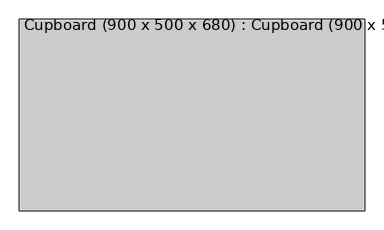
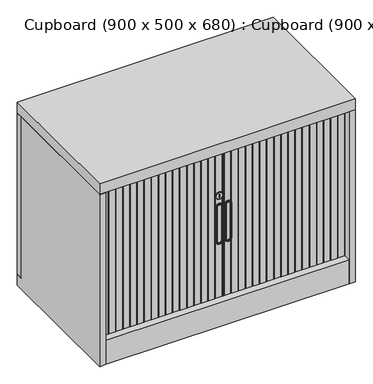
"""IFC4 building model written with IfcOpenShell, lengths in millimetres: furniture geometry, Cupboard (900 x 500 x 680) : Cupboard (900 x 500 x 680)."""

from ifc_helpers import new_model, si_unit, point, frame, frame_2d, origin, origin_with_axes, place, context, project, spatial, polyline, circle_curve, ellipse_curve, trimmed, segment, composite_curve, outline, extrude, faceted_brep, source, transform, mapped, element, save
from ifc_brep_helpers import plane_surface, cylinder_surface, revolved_surface, advanced_brep


def cupboard_900_x_500_x_680_cupboard_900_x_500_x_680_8522250a(model_context):
    return source(origin(), model_context, "Body", "SolidModel", [
        advanced_brep(
        [(26.5273848, -229.0, 301.9022034), (26.5273848, -229.0, 428.0527572), (4.5273848, -229.0, 428.0527572), (4.5273848, -229.0, 301.9022034), (6.5273848, -229.0, 302.046184), (6.5273848, -229.0, 428.0415606), (24.5273848, -229.0, 428.0415606), (24.5273848, -229.0, 302.046184), (3.5273848, -228.0, 301.9022034), (3.5273848, -226.0, 301.9022034), (27.5273848, -226.0, 301.9022034), (27.5273848, -228.0, 301.9022034), (27.5273848, -220.0, 301.9022034), (27.5273848, -220.0, 428.0527572), (27.5273848, -226.0, 428.0527572), (27.5273848, -228.0, 428.0527572), (3.5273848, -226.0, 428.0527572), (3.5273848, -228.0, 428.0527572), (3.5273848, -220.0, 428.0527572), (3.5273848, -220.0, 301.9022034), (7.5273848, -228.0, 428.0415606), (7.5273848, -226.0, 428.0415606), (23.5273848, -226.0, 428.0415606), (23.5273848, -228.0, 428.0415606), (23.5273848, -226.0, 302.046184), (23.5273848, -228.0, 302.046184), (7.5273848, -226.0, 302.046184), (7.5273848, -228.0, 302.046184)],
        [
            (0, 1),
            (1, 2, circle_curve(frame((15.5273848, -229.0, 428.0527572), z_axis=(0.0, -1.0, 0.0), x_axis=(-1.0, 0.0, 0.0)), 11.0)),
            (2, 3),
            (3, 0, circle_curve(frame((15.5273848, -229.0, 301.9022034), z_axis=(0.0, -1.0, 0.0), x_axis=(1.0, 0.0, 0.0)), 11.0)),
            (4, 5),
            (5, 6, circle_curve(frame((15.5273848, -229.0, 428.0415606), z_axis=(0.0, 1.0, 0.0), x_axis=(1.0, 0.0, 0.0)), 9.0)),
            (6, 7),
            (7, 4, circle_curve(frame((15.5273848, -229.0, 302.046184), z_axis=(0.0, 1.0, 0.0), x_axis=(-1.0, 0.0, 0.0)), 9.0)),
            (8, 9),
            (9, 10, circle_curve(frame((15.5273848, -226.0, 301.9022034), z_axis=(0.0, -1.0, 0.0), x_axis=(1.0, 0.0, 0.0)), 12.0)),
            (10, 11),
            (11, 8, circle_curve(frame((15.5273848, -228.0, 301.9022034), z_axis=(0.0, 1.0, 0.0), x_axis=(1.0, 0.0, 0.0)), 12.0)),
            (10, 12),
            (12, 13),
            (13, 14),
            (14, 15),
            (15, 11),
            (14, 16, circle_curve(frame((15.5273848, -226.0, 428.0527572), z_axis=(0.0, -1.0, 0.0), x_axis=(1.0, 0.0, 0.0)), 12.0)),
            (16, 17),
            (17, 15, circle_curve(frame((15.5273848, -228.0, 428.0527572), z_axis=(0.0, 1.0, 0.0), x_axis=(1.0, 0.0, 0.0)), 12.0)),
            (8, 17),
            (16, 18),
            (18, 19),
            (19, 9),
            (20, 21),
            (21, 22, circle_curve(frame((15.5273848, -226.0, 428.0415606), z_axis=(0.0, 1.0, 0.0), x_axis=(1.0, 0.0, 0.0)), 8.0)),
            (22, 23),
            (23, 20, circle_curve(frame((15.5273848, -228.0, 428.0415606), z_axis=(0.0, -1.0, 0.0), x_axis=(1.0, 0.0, 0.0)), 8.0)),
            (22, 24),
            (24, 25),
            (25, 23),
            (24, 26, circle_curve(frame((15.5273848, -226.0, 302.046184), z_axis=(0.0, 1.0, 0.0), x_axis=(1.0, 0.0, 0.0)), 8.0)),
            (26, 27),
            (27, 25, circle_curve(frame((15.5273848, -228.0, 302.046184), z_axis=(0.0, -1.0, 0.0), x_axis=(1.0, 0.0, 0.0)), 8.0)),
            (20, 27),
            (26, 21),
            (4, 27, circle_curve(frame((6.5273848, -228.0, 302.046184), z_axis=(0.0, 0.0, 1.0), x_axis=(-1.0, 0.0, 0.0)), 1.0)),
            (20, 5, circle_curve(frame((6.5273848, -228.0, 428.0415606), z_axis=(0.0, 0.0, -1.0), x_axis=(-1.0, 0.0, 0.0)), 1.0)),
            (7, 25, circle_curve(frame((24.5273848, -228.0, 302.046184), z_axis=(0.0, 0.0, -1.0), x_axis=(1.0, 0.0, 0.0)), 1.0)),
            (6, 23, circle_curve(frame((24.5273848, -228.0, 428.0415606), z_axis=(0.0, 0.0, -1.0), x_axis=(1.0, 0.0, 0.0)), 1.0)),
            (0, 11, circle_curve(frame((26.5273848, -228.0, 301.9022034), z_axis=(0.0, 0.0, 1.0), x_axis=(1.0, 0.0, 0.0)), 1.0)),
            (15, 1, circle_curve(frame((26.5273848, -228.0, 428.0527572), z_axis=(0.0, 0.0, -1.0), x_axis=(1.0, 0.0, 0.0)), 1.0)),
            (3, 8, circle_curve(frame((4.5273848, -228.0, 301.9022034), z_axis=(0.0, 0.0, -1.0), x_axis=(-1.0, 0.0, 0.0)), 1.0)),
            (2, 17, circle_curve(frame((4.5273848, -228.0, 428.0527572), z_axis=(0.0, 0.0, -1.0), x_axis=(-1.0, 0.0, 0.0)), 1.0)),
            (18, 13, circle_curve(frame((15.5273848, -220.0, 428.0527572), z_axis=(0.0, 1.0, 0.0), x_axis=(1.0, 0.0, 0.0)), 12.0)),
            (12, 19, circle_curve(frame((15.5273848, -220.0, 301.9022034), z_axis=(0.0, 1.0, 0.0), x_axis=(1.0, 0.0, 0.0)), 12.0)),
        ],
        [
            plane_surface(frame((27.5273848, -229.0, 301.9022034), z_axis=(0.0, -1.0, 0.0), x_axis=(0.0, 0.0, 1.0))),
            cylinder_surface(frame((15.5273848, -226.0, 301.9022034), z_axis=(0.0, -1.0, 0.0), x_axis=(1.0, 0.0, 0.0)), 12.0),
            plane_surface(frame((27.5273848, -229.0, 301.9022034), z_axis=(1.0, 0.0, 0.0), x_axis=(0.0, 1.0, 0.0))),
            cylinder_surface(frame((15.5273848, -226.0, 428.0527572), z_axis=(0.0, -1.0, 0.0), x_axis=(1.0, 0.0, 0.0)), 12.0),
            plane_surface(frame((3.5273848, -229.0, 428.0527572), z_axis=(-1.0, 0.0, 0.0), x_axis=(0.0, 1.0, 0.0))),
            revolved_surface(polyline([(23.5273848, -226.0, 428.0415606), (23.5273848, -228.0, 428.0415606)]), (15.5273848, -229.0, 428.0415606), (0.0, 1.0, 0.0)),
            plane_surface(frame((23.5273848, -229.0, 428.0415606), z_axis=(-1.0, 0.0, 0.0), x_axis=(0.0, 1.0, 0.0))),
            revolved_surface(polyline([(23.5273848, -226.0, 302.046184), (23.5273848, -228.0, 302.046184)]), (15.5273848, -229.0, 302.046184), (0.0, 1.0, 0.0)),
            plane_surface(frame((7.5273848, -229.0, 302.046184), z_axis=(1.0, 0.0, 0.0), x_axis=(0.0, 1.0, 0.0))),
            cylinder_surface(frame((6.5273848, -228.0, 428.0415606), z_axis=(0.0, 0.0, -1.0), x_axis=(-1.0, 0.0, 0.0)), 1.0),
            revolved_surface(trimmed(ellipse_curve(frame((6.5273848, -228.0, 302.046184), z_axis=(0.0, 0.0, 1.0), x_axis=(-1.0, 0.0, 0.0)), 1.0, 1.0), [point((6.5273848, -229.0, 302.046184))], [point((7.5273848, -228.0, 302.046184))], True, "CARTESIAN"), (15.5273848, -229.0, 302.046184), (0.0, -1.0, 0.0)),
            cylinder_surface(frame((24.5273848, -228.0, 302.046184), z_axis=(0.0, 0.0, 1.0), x_axis=(1.0, 0.0, 0.0)), 1.0),
            revolved_surface(trimmed(ellipse_curve(frame((24.5273848, -228.0, 428.0415606), z_axis=(0.0, 0.0, -1.0), x_axis=(1.0, 0.0, 0.0)), 1.0, 1.0), [point((24.5273848, -229.0, 428.0415606))], [point((23.5273848, -228.0, 428.0415606))], True, "CARTESIAN"), (15.5273848, -229.0, 428.0415606), (0.0, -1.0, 0.0)),
            cylinder_surface(frame((26.5273848, -228.0, 428.0527572), z_axis=(0.0, 0.0, -1.0), x_axis=(1.0, 0.0, 0.0)), 1.0),
            revolved_surface(trimmed(ellipse_curve(frame((26.5273848, -228.0, 301.9022034), z_axis=(0.0, 0.0, 1.0), x_axis=(1.0, 0.0, 0.0)), 1.0, 1.0), [point((26.5273848, -229.0, 301.9022034))], [point((27.5273848, -228.0, 301.9022034))], True, "CARTESIAN"), (15.5273848, -229.0, 301.9022034), (0.0, 1.0, 0.0)),
            cylinder_surface(frame((4.5273848, -228.0, 301.9022034), z_axis=(0.0, 0.0, 1.0), x_axis=(-1.0, 0.0, 0.0)), 1.0),
            revolved_surface(trimmed(ellipse_curve(frame((4.5273848, -228.0, 428.0527572), z_axis=(0.0, 0.0, -1.0), x_axis=(-1.0, 0.0, 0.0)), 1.0, 1.0), [point((4.5273848, -229.0, 428.0527572))], [point((3.5273848, -228.0, 428.0527572))], True, "CARTESIAN"), (15.5273848, -229.0, 428.0527572), (0.0, 1.0, 0.0)),
            plane_surface(frame((27.5273848, -226.0, 301.9022034), z_axis=(0.0, -1.0, 0.0), x_axis=(0.0, 0.0, 1.0))),
            plane_surface(frame((27.5273848, -220.0, 301.9022034), z_axis=(0.0, 1.0, 0.0), x_axis=(0.0, 0.0, -1.0))),
            cylinder_surface(frame((15.5273848, -220.0, 301.9022034), z_axis=(0.0, -1.0, 0.0), x_axis=(1.0, 0.0, 0.0)), 12.0),
            cylinder_surface(frame((15.5273848, -220.0, 428.0527572), z_axis=(0.0, -1.0, 0.0), x_axis=(1.0, 0.0, 0.0)), 12.0),
        ],
        [
            (0, [[1, 2, 3, 4], [5, 6, 7, 8]]),
            (1, [[9, 10, 11, 12]]),
            (2, [[-11, 13, 14, 15, 16, 17]]),
            (3, [[-16, 18, 19, 20]]),
            (4, [[-9, 21, -19, 22, 23, 24]]),
            (5, [[25, 26, 27, 28]]),
            (6, [[-27, 29, 30, 31]]),
            (7, [[-30, 32, 33, 34]]),
            (8, [[-25, 35, -33, 36]]),
            (9, [[37, -35, 38, -5]]),
            (10, [[-37, -8, 39, -34]]),
            (11, [[-39, -7, 40, -31]]),
            (12, [[-38, -28, -40, -6]]),
            (13, [[41, -17, 42, -1]]),
            (14, [[-41, -4, 43, -12]]),
            (15, [[-43, -3, 44, -21]]),
            (16, [[-42, -20, -44, -2]]),
            (17, [[-26, -36, -32, -29]]),
            (18, [[-23, 45, -14, 46]]),
            (19, [[-46, -13, -10, -24]]),
            (20, [[-45, -22, -18, -15]]),
        ],
    ),
        advanced_brep(
        [(-26.8154748, -229.0, 469.9505671), (-3.7101479, -229.0, 469.9505671), (-14.2354266, -229.0, 476.0185691), (-14.2354266, -229.0, 464.0185691), (-16.2354266, -229.0, 464.0185691), (-16.2354266, -229.0, 476.0185691), (-27.8154748, -220.0, 469.9505671), (-2.7101479, -220.0, 469.9505671), (-14.2354266, -220.0, 476.0185691), (-16.2354266, -220.0, 476.0185691), (-16.2354266, -220.0, 464.0185691), (-14.2354266, -220.0, 464.0185691), (-2.7101479, -228.0, 469.9505671), (-27.8154748, -228.0, 469.9505671)],
        [
            (0, 1, circle_curve(frame((-15.2628114, -229.0, 469.9505671), z_axis=(0.0, -1.0, 0.0), x_axis=(1.0, 0.0, 0.0)), 11.5526635)),
            (1, 0, circle_curve(frame((-15.2628114, -229.0, 469.9505671), z_axis=(0.0, -1.0, 0.0), x_axis=(-1.0, 0.0, 0.0)), 11.5526635)),
            (2, 3),
            (3, 4),
            (4, 5),
            (5, 2),
            (6, 7, circle_curve(frame((-15.2628114, -220.0, 469.9505671), z_axis=(0.0, 1.0, 0.0), x_axis=(1.0, 0.0, 0.0)), 12.5526635)),
            (7, 6, circle_curve(frame((-15.2628114, -220.0, 469.9505671), z_axis=(0.0, 1.0, 0.0), x_axis=(1.0, 0.0, 0.0)), 12.5526635)),
            (8, 9),
            (9, 10),
            (10, 11),
            (11, 8),
            (7, 12),
            (12, 13, circle_curve(frame((-15.2628114, -228.0, 469.9505671), z_axis=(0.0, 1.0, 0.0), x_axis=(1.0, 0.0, 0.0)), 12.5526635)),
            (13, 6),
            (13, 12, circle_curve(frame((-15.2628114, -228.0, 469.9505671), z_axis=(0.0, 1.0, 0.0), x_axis=(1.0, 0.0, 0.0)), 12.5526635)),
            (2, 8),
            (11, 3),
            (10, 4),
            (9, 5),
            (0, 13, circle_curve(frame((-26.8154748, -228.0, 469.9505671), z_axis=(0.0, 0.0, -1.0), x_axis=(-1.0, 0.0, 0.0)), 1.0)),
            (12, 1, circle_curve(frame((-3.7101479, -228.0, 469.9505671), z_axis=(0.0, 0.0, -1.0), x_axis=(1.0, 0.0, 0.0)), 1.0)),
        ],
        [
            plane_surface(frame((-2.7101479, -229.0, 469.9505671), z_axis=(0.0, -1.0, 0.0), x_axis=(0.0, 0.0, 1.0))),
            plane_surface(frame((-2.7101479, -220.0, 469.9505671), z_axis=(0.0, 1.0, 0.0), x_axis=(0.0, 0.0, -1.0))),
            cylinder_surface(frame((-15.2628114, -220.0, 469.9505671), z_axis=(0.0, -1.0, 0.0), x_axis=(1.0, 0.0, 0.0)), 12.5526635),
            plane_surface(frame((-14.2354266, -229.0, 476.0185691), z_axis=(-1.0, 0.0, 0.0), x_axis=(0.0, 1.0, 0.0))),
            plane_surface(frame((-14.2354266, -229.0, 464.0185691), z_axis=(0.0, 0.0, 1.0), x_axis=(0.0, 1.0, 0.0))),
            plane_surface(frame((-16.2354266, -229.0, 464.0185691), z_axis=(1.0, 0.0, 0.0), x_axis=(0.0, 1.0, 0.0))),
            plane_surface(frame((-16.2354266, -229.0, 476.0185691), z_axis=(0.0, 0.0, -1.0), x_axis=(0.0, 1.0, 0.0))),
            revolved_surface(trimmed(ellipse_curve(frame((-3.7101479, -228.0, 469.9505671), z_axis=(0.0, 0.0, 1.0), x_axis=(1.0, 0.0, 0.0)), 1.0, 1.0), [point((-3.7101479, -229.0, 469.9505671))], [point((-2.7101479, -228.0, 469.9505671))], True, "CARTESIAN"), (-15.2628114, -229.0, 469.9505671), (0.0, 1.0, 0.0)),
            revolved_surface(trimmed(ellipse_curve(frame((-26.8154748, -228.0, 469.9505671), z_axis=(0.0, 0.0, -1.0), x_axis=(-1.0, 0.0, 0.0)), 1.0, 1.0), [point((-26.8154748, -229.0, 469.9505671))], [point((-27.8154748, -228.0, 469.9505671))], True, "CARTESIAN"), (-15.2628114, -229.0, 469.9505671), (0.0, 1.0, 0.0)),
        ],
        [
            (0, [[1, 2], [3, 4, 5, 6]]),
            (1, [[7, 8], [9, 10, 11, 12]]),
            (2, [[-8, 13, 14, 15]]),
            (2, [[-7, -15, 16, -13]]),
            (3, [[-3, 17, -12, 18]]),
            (4, [[-4, -18, -11, 19]]),
            (5, [[-5, -19, -10, 20]]),
            (6, [[-6, -20, -9, -17]]),
            (7, [[21, -14, 22, -1]]),
            (8, [[-21, -2, -22, -16]]),
        ],
    ),
        advanced_brep(
        [(-4.2354266, -229.0, 301.9022034), (-4.2354266, -229.0, 428.0527572), (-26.2354266, -229.0, 428.0527572), (-26.2354266, -229.0, 301.9022034), (-24.2354266, -229.0, 302.046184), (-24.2354266, -229.0, 428.0415606), (-6.2354266, -229.0, 428.0415606), (-6.2354266, -229.0, 302.046184), (-27.2354266, -228.0, 301.9022034), (-27.2354266, -226.0, 301.9022034), (-3.2354266, -226.0, 301.9022034), (-3.2354266, -228.0, 301.9022034), (-3.2354266, -220.0, 301.9022034), (-3.2354266, -220.0, 428.0527572), (-3.2354266, -226.0, 428.0527572), (-3.2354266, -228.0, 428.0527572), (-27.2354266, -226.0, 428.0527572), (-27.2354266, -228.0, 428.0527572), (-27.2354266, -220.0, 428.0527572), (-27.2354266, -220.0, 301.9022034), (-23.2354266, -228.0, 428.0415606), (-23.2354266, -226.0, 428.0415606), (-7.2354266, -226.0, 428.0415606), (-7.2354266, -228.0, 428.0415606), (-7.2354266, -226.0, 302.046184), (-7.2354266, -228.0, 302.046184), (-23.2354266, -226.0, 302.046184), (-23.2354266, -228.0, 302.046184)],
        [
            (0, 1),
            (1, 2, circle_curve(frame((-15.2354266, -229.0, 428.0527572), z_axis=(0.0, -1.0, 0.0), x_axis=(-1.0, 0.0, 0.0)), 11.0)),
            (2, 3),
            (3, 0, circle_curve(frame((-15.2354266, -229.0, 301.9022034), z_axis=(0.0, -1.0, 0.0), x_axis=(1.0, 0.0, 0.0)), 11.0)),
            (4, 5),
            (5, 6, circle_curve(frame((-15.2354266, -229.0, 428.0415606), z_axis=(0.0, 1.0, 0.0), x_axis=(1.0, 0.0, 0.0)), 9.0)),
            (6, 7),
            (7, 4, circle_curve(frame((-15.2354266, -229.0, 302.046184), z_axis=(0.0, 1.0, 0.0), x_axis=(-1.0, 0.0, 0.0)), 9.0)),
            (8, 9),
            (9, 10, circle_curve(frame((-15.2354266, -226.0, 301.9022034), z_axis=(0.0, -1.0, 0.0), x_axis=(1.0, 0.0, 0.0)), 12.0)),
            (10, 11),
            (11, 8, circle_curve(frame((-15.2354266, -228.0, 301.9022034), z_axis=(0.0, 1.0, 0.0), x_axis=(1.0, 0.0, 0.0)), 12.0)),
            (10, 12),
            (12, 13),
            (13, 14),
            (14, 15),
            (15, 11),
            (14, 16, circle_curve(frame((-15.2354266, -226.0, 428.0527572), z_axis=(0.0, -1.0, 0.0), x_axis=(1.0, 0.0, 0.0)), 12.0)),
            (16, 17),
            (17, 15, circle_curve(frame((-15.2354266, -228.0, 428.0527572), z_axis=(0.0, 1.0, 0.0), x_axis=(1.0, 0.0, 0.0)), 12.0)),
            (8, 17),
            (16, 18),
            (18, 19),
            (19, 9),
            (20, 21),
            (21, 22, circle_curve(frame((-15.2354266, -226.0, 428.0415606), z_axis=(0.0, 1.0, 0.0), x_axis=(1.0, 0.0, 0.0)), 8.0)),
            (22, 23),
            (23, 20, circle_curve(frame((-15.2354266, -228.0, 428.0415606), z_axis=(0.0, -1.0, 0.0), x_axis=(1.0, 0.0, 0.0)), 8.0)),
            (22, 24),
            (24, 25),
            (25, 23),
            (24, 26, circle_curve(frame((-15.2354266, -226.0, 302.046184), z_axis=(0.0, 1.0, 0.0), x_axis=(1.0, 0.0, 0.0)), 8.0)),
            (26, 27),
            (27, 25, circle_curve(frame((-15.2354266, -228.0, 302.046184), z_axis=(0.0, -1.0, 0.0), x_axis=(1.0, 0.0, 0.0)), 8.0)),
            (20, 27),
            (26, 21),
            (4, 27, circle_curve(frame((-24.2354266, -228.0, 302.046184), z_axis=(0.0, 0.0, 1.0), x_axis=(-1.0, 0.0, 0.0)), 1.0)),
            (20, 5, circle_curve(frame((-24.2354266, -228.0, 428.0415606), z_axis=(0.0, 0.0, -1.0), x_axis=(-1.0, 0.0, 0.0)), 1.0)),
            (7, 25, circle_curve(frame((-6.2354266, -228.0, 302.046184), z_axis=(0.0, 0.0, -1.0), x_axis=(1.0, 0.0, 0.0)), 1.0)),
            (6, 23, circle_curve(frame((-6.2354266, -228.0, 428.0415606), z_axis=(0.0, 0.0, -1.0), x_axis=(1.0, 0.0, 0.0)), 1.0)),
            (0, 11, circle_curve(frame((-4.2354266, -228.0, 301.9022034), z_axis=(0.0, 0.0, 1.0), x_axis=(1.0, 0.0, 0.0)), 1.0)),
            (15, 1, circle_curve(frame((-4.2354266, -228.0, 428.0527572), z_axis=(0.0, 0.0, -1.0), x_axis=(1.0, 0.0, 0.0)), 1.0)),
            (3, 8, circle_curve(frame((-26.2354266, -228.0, 301.9022034), z_axis=(0.0, 0.0, -1.0), x_axis=(-1.0, 0.0, 0.0)), 1.0)),
            (2, 17, circle_curve(frame((-26.2354266, -228.0, 428.0527572), z_axis=(0.0, 0.0, -1.0), x_axis=(-1.0, 0.0, 0.0)), 1.0)),
            (18, 13, circle_curve(frame((-15.2354266, -220.0, 428.0527572), z_axis=(0.0, 1.0, 0.0), x_axis=(1.0, 0.0, 0.0)), 12.0)),
            (12, 19, circle_curve(frame((-15.2354266, -220.0, 301.9022034), z_axis=(0.0, 1.0, 0.0), x_axis=(1.0, 0.0, 0.0)), 12.0)),
        ],
        [
            plane_surface(frame((-3.2354266, -229.0, 301.9022034), z_axis=(0.0, -1.0, 0.0), x_axis=(0.0, 0.0, 1.0))),
            cylinder_surface(frame((-15.2354266, -226.0, 301.9022034), z_axis=(0.0, -1.0, 0.0), x_axis=(1.0, 0.0, 0.0)), 12.0),
            plane_surface(frame((-3.2354266, -229.0, 301.9022034), z_axis=(1.0, 0.0, 0.0), x_axis=(0.0, 1.0, 0.0))),
            cylinder_surface(frame((-15.2354266, -226.0, 428.0527572), z_axis=(0.0, -1.0, 0.0), x_axis=(1.0, 0.0, 0.0)), 12.0),
            plane_surface(frame((-27.2354266, -229.0, 428.0527572), z_axis=(-1.0, 0.0, 0.0), x_axis=(0.0, 1.0, 0.0))),
            revolved_surface(polyline([(-7.2354266, -226.0, 428.0415606), (-7.2354266, -228.0, 428.0415606)]), (-15.2354266, -229.0, 428.0415606), (0.0, 1.0, 0.0)),
            plane_surface(frame((-7.2354266, -229.0, 428.0415606), z_axis=(-1.0, 0.0, 0.0), x_axis=(0.0, 1.0, 0.0))),
            revolved_surface(polyline([(-7.2354266, -226.0, 302.046184), (-7.2354266, -228.0, 302.046184)]), (-15.2354266, -229.0, 302.046184), (0.0, 1.0, 0.0)),
            plane_surface(frame((-23.2354266, -229.0, 302.046184), z_axis=(1.0, 0.0, 0.0), x_axis=(0.0, 1.0, 0.0))),
            cylinder_surface(frame((-24.2354266, -228.0, 428.0415606), z_axis=(0.0, 0.0, -1.0), x_axis=(-1.0, 0.0, 0.0)), 1.0),
            revolved_surface(trimmed(ellipse_curve(frame((-24.2354266, -228.0, 302.046184), z_axis=(0.0, 0.0, 1.0), x_axis=(-1.0, 0.0, 0.0)), 1.0, 1.0), [point((-24.2354266, -229.0, 302.046184))], [point((-23.2354266, -228.0, 302.046184))], True, "CARTESIAN"), (-15.2354266, -229.0, 302.046184), (0.0, -1.0, 0.0)),
            cylinder_surface(frame((-6.2354266, -228.0, 302.046184), z_axis=(0.0, 0.0, 1.0), x_axis=(1.0, 0.0, 0.0)), 1.0),
            revolved_surface(trimmed(ellipse_curve(frame((-6.2354266, -228.0, 428.0415606), z_axis=(0.0, 0.0, -1.0), x_axis=(1.0, 0.0, 0.0)), 1.0, 1.0), [point((-6.2354266, -229.0, 428.0415606))], [point((-7.2354266, -228.0, 428.0415606))], True, "CARTESIAN"), (-15.2354266, -229.0, 428.0415606), (0.0, -1.0, 0.0)),
            cylinder_surface(frame((-4.2354266, -228.0, 428.0527572), z_axis=(0.0, 0.0, -1.0), x_axis=(1.0, 0.0, 0.0)), 1.0),
            revolved_surface(trimmed(ellipse_curve(frame((-4.2354266, -228.0, 301.9022034), z_axis=(0.0, 0.0, 1.0), x_axis=(1.0, 0.0, 0.0)), 1.0, 1.0), [point((-4.2354266, -229.0, 301.9022034))], [point((-3.2354266, -228.0, 301.9022034))], True, "CARTESIAN"), (-15.2354266, -229.0, 301.9022034), (0.0, 1.0, 0.0)),
            cylinder_surface(frame((-26.2354266, -228.0, 301.9022034), z_axis=(0.0, 0.0, 1.0), x_axis=(-1.0, 0.0, 0.0)), 1.0),
            revolved_surface(trimmed(ellipse_curve(frame((-26.2354266, -228.0, 428.0527572), z_axis=(0.0, 0.0, -1.0), x_axis=(-1.0, 0.0, 0.0)), 1.0, 1.0), [point((-26.2354266, -229.0, 428.0527572))], [point((-27.2354266, -228.0, 428.0527572))], True, "CARTESIAN"), (-15.2354266, -229.0, 428.0527572), (0.0, 1.0, 0.0)),
            plane_surface(frame((-3.2354266, -226.0, 301.9022034), z_axis=(0.0, -1.0, 0.0), x_axis=(0.0, 0.0, 1.0))),
            plane_surface(frame((-3.2354266, -220.0, 301.9022034), z_axis=(0.0, 1.0, 0.0), x_axis=(0.0, 0.0, -1.0))),
            cylinder_surface(frame((-15.2354266, -220.0, 301.9022034), z_axis=(0.0, -1.0, 0.0), x_axis=(1.0, 0.0, 0.0)), 12.0),
            cylinder_surface(frame((-15.2354266, -220.0, 428.0527572), z_axis=(0.0, -1.0, 0.0), x_axis=(1.0, 0.0, 0.0)), 12.0),
        ],
        [
            (0, [[1, 2, 3, 4], [5, 6, 7, 8]]),
            (1, [[9, 10, 11, 12]]),
            (2, [[-11, 13, 14, 15, 16, 17]]),
            (3, [[-16, 18, 19, 20]]),
            (4, [[-9, 21, -19, 22, 23, 24]]),
            (5, [[25, 26, 27, 28]]),
            (6, [[-27, 29, 30, 31]]),
            (7, [[-30, 32, 33, 34]]),
            (8, [[-25, 35, -33, 36]]),
            (9, [[37, -35, 38, -5]]),
            (10, [[-37, -8, 39, -34]]),
            (11, [[-39, -7, 40, -31]]),
            (12, [[-38, -28, -40, -6]]),
            (13, [[41, -17, 42, -1]]),
            (14, [[-41, -4, 43, -12]]),
            (15, [[-43, -3, 44, -21]]),
            (16, [[-42, -20, -44, -2]]),
            (17, [[-26, -36, -32, -29]]),
            (18, [[-23, 45, -14, 46]]),
            (19, [[-46, -13, -10, -24]]),
            (20, [[-45, -22, -18, -15]]),
        ],
    ),
        extrude(outline(composite_curve([segment(polyline([(3.0, -220.0), (28.0, -220.0), (28.0, -223.0)]), True, "CONTINUOUS"), segment(trimmed(circle_curve(frame_2d((26.0, -223.0)), 2.0), [point((28.0, -223.0))], [point((26.0, -225.0))], False, "CARTESIAN"), True, "CONTINUOUS"), segment(polyline([(26.0, -225.0), (5.0, -225.0)]), True, "CONTINUOUS"), segment(trimmed(circle_curve(frame_2d((5.0, -223.0)), 2.0), [point((5.0, -225.0))], [point((3.0, -223.0))], False, "CARTESIAN"), True, "CONTINUOUS"), segment(polyline([(3.0, -223.0), (3.0, -220.0)]), True, "CONTINUOUS")], self_intersect=False)), frame((0.0, 0.0, 90.0), z_axis=(0.0, 0.0, 1.0), x_axis=(1.0, 0.0, 0.0)), (0.0, 0.0, 1.0), 549.5),
        extrude(outline(composite_curve([segment(polyline([(28.0, -220.0), (53.0, -220.0), (53.0, -223.0)]), True, "CONTINUOUS"), segment(trimmed(circle_curve(frame_2d((51.0, -223.0)), 2.0), [point((53.0, -223.0))], [point((51.0, -225.0))], False, "CARTESIAN"), True, "CONTINUOUS"), segment(polyline([(51.0, -225.0), (30.0, -225.0)]), True, "CONTINUOUS"), segment(trimmed(circle_curve(frame_2d((30.0, -223.0)), 2.0), [point((30.0, -225.0))], [point((28.0, -223.0))], False, "CARTESIAN"), True, "CONTINUOUS"), segment(polyline([(28.0, -223.0), (28.0, -220.0)]), True, "CONTINUOUS")], self_intersect=False)), frame((0.0, 0.0, 90.0), z_axis=(0.0, 0.0, 1.0), x_axis=(1.0, 0.0, 0.0)), (0.0, 0.0, 1.0), 549.5),
        extrude(outline(composite_curve([segment(polyline([(53.0, -220.0), (78.0, -220.0), (78.0, -223.0)]), True, "CONTINUOUS"), segment(trimmed(circle_curve(frame_2d((76.0, -223.0)), 2.0), [point((78.0, -223.0))], [point((76.0, -225.0))], False, "CARTESIAN"), True, "CONTINUOUS"), segment(polyline([(76.0, -225.0), (55.0, -225.0)]), True, "CONTINUOUS"), segment(trimmed(circle_curve(frame_2d((55.0, -223.0)), 2.0), [point((55.0, -225.0))], [point((53.0, -223.0))], False, "CARTESIAN"), True, "CONTINUOUS"), segment(polyline([(53.0, -223.0), (53.0, -220.0)]), True, "CONTINUOUS")], self_intersect=False)), frame((0.0, 0.0, 90.0), z_axis=(0.0, 0.0, 1.0), x_axis=(1.0, 0.0, 0.0)), (0.0, 0.0, 1.0), 549.5),
        extrude(outline(composite_curve([segment(polyline([(78.0, -220.0), (103.0, -220.0), (103.0, -223.0)]), True, "CONTINUOUS"), segment(trimmed(circle_curve(frame_2d((101.0, -223.0)), 2.0), [point((103.0, -223.0))], [point((101.0, -225.0))], False, "CARTESIAN"), True, "CONTINUOUS"), segment(polyline([(101.0, -225.0), (80.0, -225.0)]), True, "CONTINUOUS"), segment(trimmed(circle_curve(frame_2d((80.0, -223.0)), 2.0), [point((80.0, -225.0))], [point((78.0, -223.0))], False, "CARTESIAN"), True, "CONTINUOUS"), segment(polyline([(78.0, -223.0), (78.0, -220.0)]), True, "CONTINUOUS")], self_intersect=False)), frame((0.0, 0.0, 90.0), z_axis=(0.0, 0.0, 1.0), x_axis=(1.0, 0.0, 0.0)), (0.0, 0.0, 1.0), 549.5),
        extrude(outline(composite_curve([segment(polyline([(103.0, -220.0), (128.0, -220.0), (128.0, -223.0)]), True, "CONTINUOUS"), segment(trimmed(circle_curve(frame_2d((126.0, -223.0)), 2.0), [point((128.0, -223.0))], [point((126.0, -225.0))], False, "CARTESIAN"), True, "CONTINUOUS"), segment(polyline([(126.0, -225.0), (105.0, -225.0)]), True, "CONTINUOUS"), segment(trimmed(circle_curve(frame_2d((105.0, -223.0)), 2.0), [point((105.0, -225.0))], [point((103.0, -223.0))], False, "CARTESIAN"), True, "CONTINUOUS"), segment(polyline([(103.0, -223.0), (103.0, -220.0)]), True, "CONTINUOUS")], self_intersect=False)), frame((0.0, 0.0, 90.0), z_axis=(0.0, 0.0, 1.0), x_axis=(1.0, 0.0, 0.0)), (0.0, 0.0, 1.0), 549.5),
        extrude(outline(composite_curve([segment(polyline([(128.0, -220.0), (153.0, -220.0), (153.0, -223.0)]), True, "CONTINUOUS"), segment(trimmed(circle_curve(frame_2d((151.0, -223.0)), 2.0), [point((153.0, -223.0))], [point((151.0, -225.0))], False, "CARTESIAN"), True, "CONTINUOUS"), segment(polyline([(151.0, -225.0), (130.0, -225.0)]), True, "CONTINUOUS"), segment(trimmed(circle_curve(frame_2d((130.0, -223.0)), 2.0), [point((130.0, -225.0))], [point((128.0, -223.0))], False, "CARTESIAN"), True, "CONTINUOUS"), segment(polyline([(128.0, -223.0), (128.0, -220.0)]), True, "CONTINUOUS")], self_intersect=False)), frame((0.0, 0.0, 90.0), z_axis=(0.0, 0.0, 1.0), x_axis=(1.0, 0.0, 0.0)), (0.0, 0.0, 1.0), 549.5),
        extrude(outline(composite_curve([segment(polyline([(153.0, -220.0), (178.0, -220.0), (178.0, -223.0)]), True, "CONTINUOUS"), segment(trimmed(circle_curve(frame_2d((176.0, -223.0)), 2.0), [point((178.0, -223.0))], [point((176.0, -225.0))], False, "CARTESIAN"), True, "CONTINUOUS"), segment(polyline([(176.0, -225.0), (155.0, -225.0)]), True, "CONTINUOUS"), segment(trimmed(circle_curve(frame_2d((155.0, -223.0)), 2.0), [point((155.0, -225.0))], [point((153.0, -223.0))], False, "CARTESIAN"), True, "CONTINUOUS"), segment(polyline([(153.0, -223.0), (153.0, -220.0)]), True, "CONTINUOUS")], self_intersect=False)), frame((0.0, 0.0, 90.0), z_axis=(0.0, 0.0, 1.0), x_axis=(1.0, 0.0, 0.0)), (0.0, 0.0, 1.0), 549.5),
        extrude(outline(composite_curve([segment(polyline([(178.0, -220.0), (203.0, -220.0), (203.0, -223.0)]), True, "CONTINUOUS"), segment(trimmed(circle_curve(frame_2d((201.0, -223.0)), 2.0), [point((203.0, -223.0))], [point((201.0, -225.0))], False, "CARTESIAN"), True, "CONTINUOUS"), segment(polyline([(201.0, -225.0), (180.0, -225.0)]), True, "CONTINUOUS"), segment(trimmed(circle_curve(frame_2d((180.0, -223.0)), 2.0), [point((180.0, -225.0))], [point((178.0, -223.0))], False, "CARTESIAN"), True, "CONTINUOUS"), segment(polyline([(178.0, -223.0), (178.0, -220.0)]), True, "CONTINUOUS")], self_intersect=False)), frame((0.0, 0.0, 90.0), z_axis=(0.0, 0.0, 1.0), x_axis=(1.0, 0.0, 0.0)), (0.0, 0.0, 1.0), 549.5),
        extrude(outline(composite_curve([segment(polyline([(203.0, -220.0), (228.0, -220.0), (228.0, -223.0)]), True, "CONTINUOUS"), segment(trimmed(circle_curve(frame_2d((226.0, -223.0)), 2.0), [point((228.0, -223.0))], [point((226.0, -225.0))], False, "CARTESIAN"), True, "CONTINUOUS"), segment(polyline([(226.0, -225.0), (205.0, -225.0)]), True, "CONTINUOUS"), segment(trimmed(circle_curve(frame_2d((205.0, -223.0)), 2.0), [point((205.0, -225.0))], [point((203.0, -223.0))], False, "CARTESIAN"), True, "CONTINUOUS"), segment(polyline([(203.0, -223.0), (203.0, -220.0)]), True, "CONTINUOUS")], self_intersect=False)), frame((0.0, 0.0, 90.0), z_axis=(0.0, 0.0, 1.0), x_axis=(1.0, 0.0, 0.0)), (0.0, 0.0, 1.0), 549.5),
        extrude(outline(composite_curve([segment(polyline([(228.0, -220.0), (253.0, -220.0), (253.0, -223.0)]), True, "CONTINUOUS"), segment(trimmed(circle_curve(frame_2d((251.0, -223.0)), 2.0), [point((253.0, -223.0))], [point((251.0, -225.0))], False, "CARTESIAN"), True, "CONTINUOUS"), segment(polyline([(251.0, -225.0), (230.0, -225.0)]), True, "CONTINUOUS"), segment(trimmed(circle_curve(frame_2d((230.0, -223.0)), 2.0), [point((230.0, -225.0))], [point((228.0, -223.0))], False, "CARTESIAN"), True, "CONTINUOUS"), segment(polyline([(228.0, -223.0), (228.0, -220.0)]), True, "CONTINUOUS")], self_intersect=False)), frame((0.0, 0.0, 90.0), z_axis=(0.0, 0.0, 1.0), x_axis=(1.0, 0.0, 0.0)), (0.0, 0.0, 1.0), 549.5),
        extrude(outline(composite_curve([segment(polyline([(253.0, -220.0), (278.0, -220.0), (278.0, -223.0)]), True, "CONTINUOUS"), segment(trimmed(circle_curve(frame_2d((276.0, -223.0)), 2.0), [point((278.0, -223.0))], [point((276.0, -225.0))], False, "CARTESIAN"), True, "CONTINUOUS"), segment(polyline([(276.0, -225.0), (255.0, -225.0)]), True, "CONTINUOUS"), segment(trimmed(circle_curve(frame_2d((255.0, -223.0)), 2.0), [point((255.0, -225.0))], [point((253.0, -223.0))], False, "CARTESIAN"), True, "CONTINUOUS"), segment(polyline([(253.0, -223.0), (253.0, -220.0)]), True, "CONTINUOUS")], self_intersect=False)), frame((0.0, 0.0, 90.0), z_axis=(0.0, 0.0, 1.0), x_axis=(1.0, 0.0, 0.0)), (0.0, 0.0, 1.0), 549.5),
        extrude(outline(composite_curve([segment(polyline([(278.0, -220.0), (303.0, -220.0), (303.0, -223.0)]), True, "CONTINUOUS"), segment(trimmed(circle_curve(frame_2d((301.0, -223.0)), 2.0), [point((303.0, -223.0))], [point((301.0, -225.0))], False, "CARTESIAN"), True, "CONTINUOUS"), segment(polyline([(301.0, -225.0), (280.0, -225.0)]), True, "CONTINUOUS"), segment(trimmed(circle_curve(frame_2d((280.0, -223.0)), 2.0), [point((280.0, -225.0))], [point((278.0, -223.0))], False, "CARTESIAN"), True, "CONTINUOUS"), segment(polyline([(278.0, -223.0), (278.0, -220.0)]), True, "CONTINUOUS")], self_intersect=False)), frame((0.0, 0.0, 90.0), z_axis=(0.0, 0.0, 1.0), x_axis=(1.0, 0.0, 0.0)), (0.0, 0.0, 1.0), 549.5),
        extrude(outline(composite_curve([segment(polyline([(303.0, -220.0), (328.0, -220.0), (328.0, -223.0)]), True, "CONTINUOUS"), segment(trimmed(circle_curve(frame_2d((326.0, -223.0)), 2.0), [point((328.0, -223.0))], [point((326.0, -225.0))], False, "CARTESIAN"), True, "CONTINUOUS"), segment(polyline([(326.0, -225.0), (305.0, -225.0)]), True, "CONTINUOUS"), segment(trimmed(circle_curve(frame_2d((305.0, -223.0)), 2.0), [point((305.0, -225.0))], [point((303.0, -223.0))], False, "CARTESIAN"), True, "CONTINUOUS"), segment(polyline([(303.0, -223.0), (303.0, -220.0)]), True, "CONTINUOUS")], self_intersect=False)), frame((0.0, 0.0, 90.0), z_axis=(0.0, 0.0, 1.0), x_axis=(1.0, 0.0, 0.0)), (0.0, 0.0, 1.0), 549.5),
        extrude(outline(composite_curve([segment(polyline([(328.0, -220.0), (353.0, -220.0), (353.0, -223.0)]), True, "CONTINUOUS"), segment(trimmed(circle_curve(frame_2d((351.0, -223.0)), 2.0), [point((353.0, -223.0))], [point((351.0, -225.0))], False, "CARTESIAN"), True, "CONTINUOUS"), segment(polyline([(351.0, -225.0), (330.0, -225.0)]), True, "CONTINUOUS"), segment(trimmed(circle_curve(frame_2d((330.0, -223.0)), 2.0), [point((330.0, -225.0))], [point((328.0, -223.0))], False, "CARTESIAN"), True, "CONTINUOUS"), segment(polyline([(328.0, -223.0), (328.0, -220.0)]), True, "CONTINUOUS")], self_intersect=False)), frame((0.0, 0.0, 90.0), z_axis=(0.0, 0.0, 1.0), x_axis=(1.0, 0.0, 0.0)), (0.0, 0.0, 1.0), 549.5),
        extrude(outline(composite_curve([segment(polyline([(353.0, -220.0), (378.0, -220.0), (378.0, -223.0)]), True, "CONTINUOUS"), segment(trimmed(circle_curve(frame_2d((376.0, -223.0)), 2.0), [point((378.0, -223.0))], [point((376.0, -225.0))], False, "CARTESIAN"), True, "CONTINUOUS"), segment(polyline([(376.0, -225.0), (355.0, -225.0)]), True, "CONTINUOUS"), segment(trimmed(circle_curve(frame_2d((355.0, -223.0)), 2.0), [point((355.0, -225.0))], [point((353.0, -223.0))], False, "CARTESIAN"), True, "CONTINUOUS"), segment(polyline([(353.0, -223.0), (353.0, -220.0)]), True, "CONTINUOUS")], self_intersect=False)), frame((0.0, 0.0, 90.0), z_axis=(0.0, 0.0, 1.0), x_axis=(1.0, 0.0, 0.0)), (0.0, 0.0, 1.0), 549.5),
        extrude(outline(composite_curve([segment(polyline([(378.0, -220.0), (403.0, -220.0), (403.0, -223.0)]), True, "CONTINUOUS"), segment(trimmed(circle_curve(frame_2d((401.0, -223.0)), 2.0), [point((403.0, -223.0))], [point((401.0, -225.0))], False, "CARTESIAN"), True, "CONTINUOUS"), segment(polyline([(401.0, -225.0), (380.0, -225.0)]), True, "CONTINUOUS"), segment(trimmed(circle_curve(frame_2d((380.0, -223.0)), 2.0), [point((380.0, -225.0))], [point((378.0, -223.0))], False, "CARTESIAN"), True, "CONTINUOUS"), segment(polyline([(378.0, -223.0), (378.0, -220.0)]), True, "CONTINUOUS")], self_intersect=False)), frame((0.0, 0.0, 90.0), z_axis=(0.0, 0.0, 1.0), x_axis=(1.0, 0.0, 0.0)), (0.0, 0.0, 1.0), 549.5),
        extrude(outline(composite_curve([segment(polyline([(403.0, -220.0), (428.0, -220.0), (428.0, -223.0)]), True, "CONTINUOUS"), segment(trimmed(circle_curve(frame_2d((426.0, -223.0)), 2.0), [point((428.0, -223.0))], [point((426.0, -225.0))], False, "CARTESIAN"), True, "CONTINUOUS"), segment(polyline([(426.0, -225.0), (405.0, -225.0)]), True, "CONTINUOUS"), segment(trimmed(circle_curve(frame_2d((405.0, -223.0)), 2.0), [point((405.0, -225.0))], [point((403.0, -223.0))], False, "CARTESIAN"), True, "CONTINUOUS"), segment(polyline([(403.0, -223.0), (403.0, -220.0)]), True, "CONTINUOUS")], self_intersect=False)), frame((0.0, 0.0, 90.0), z_axis=(0.0, 0.0, 1.0), x_axis=(1.0, 0.0, 0.0)), (0.0, 0.0, 1.0), 549.5),
        extrude(outline(composite_curve([segment(polyline([(3.0, -220.0), (3.0, -223.5)]), True, "CONTINUOUS"), segment(trimmed(circle_curve(frame_2d((1.5, -223.5)), 1.5), [point((3.0, -223.5))], [point((1.5, -225.0))], False, "CARTESIAN"), True, "CONTINUOUS"), segment(polyline([(1.5, -225.0), (0.5, -225.0), (0.5, -220.0), (3.0, -220.0)]), True, "CONTINUOUS")], self_intersect=False)), frame((0.0, 0.0, 90.0), z_axis=(0.0, 0.0, 1.0), x_axis=(1.0, 0.0, 0.0)), (0.0, 0.0, 1.0), 549.5),
        extrude(outline(composite_curve([segment(polyline([(-3.0, -220.0), (-3.0, -223.0)]), True, "CONTINUOUS"), segment(trimmed(circle_curve(frame_2d((-5.0, -223.0)), 2.0), [point((-3.0, -223.0))], [point((-5.0, -225.0))], False, "CARTESIAN"), True, "CONTINUOUS"), segment(polyline([(-5.0, -225.0), (-26.0, -225.0)]), True, "CONTINUOUS"), segment(trimmed(circle_curve(frame_2d((-26.0, -223.0)), 2.0), [point((-26.0, -225.0))], [point((-28.0, -223.0))], False, "CARTESIAN"), True, "CONTINUOUS"), segment(polyline([(-28.0, -223.0), (-28.0, -220.0), (-3.0, -220.0)]), True, "CONTINUOUS")], self_intersect=False)), frame((0.0, 0.0, 90.0), z_axis=(0.0, 0.0, 1.0), x_axis=(1.0, 0.0, 0.0)), (0.0, 0.0, 1.0), 549.5),
        extrude(outline(composite_curve([segment(polyline([(-28.0, -220.0), (-28.0, -223.0)]), True, "CONTINUOUS"), segment(trimmed(circle_curve(frame_2d((-30.0, -223.0)), 2.0), [point((-28.0, -223.0))], [point((-30.0, -225.0))], False, "CARTESIAN"), True, "CONTINUOUS"), segment(polyline([(-30.0, -225.0), (-51.0, -225.0)]), True, "CONTINUOUS"), segment(trimmed(circle_curve(frame_2d((-51.0, -223.0)), 2.0), [point((-51.0, -225.0))], [point((-53.0, -223.0))], False, "CARTESIAN"), True, "CONTINUOUS"), segment(polyline([(-53.0, -223.0), (-53.0, -220.0), (-28.0, -220.0)]), True, "CONTINUOUS")], self_intersect=False)), frame((0.0, 0.0, 90.0), z_axis=(0.0, 0.0, 1.0), x_axis=(1.0, 0.0, 0.0)), (0.0, 0.0, 1.0), 549.5),
        extrude(outline(composite_curve([segment(polyline([(-53.0, -220.0), (-53.0, -223.0)]), True, "CONTINUOUS"), segment(trimmed(circle_curve(frame_2d((-55.0, -223.0)), 2.0), [point((-53.0, -223.0))], [point((-55.0, -225.0))], False, "CARTESIAN"), True, "CONTINUOUS"), segment(polyline([(-55.0, -225.0), (-76.0, -225.0)]), True, "CONTINUOUS"), segment(trimmed(circle_curve(frame_2d((-76.0, -223.0)), 2.0), [point((-76.0, -225.0))], [point((-78.0, -223.0))], False, "CARTESIAN"), True, "CONTINUOUS"), segment(polyline([(-78.0, -223.0), (-78.0, -220.0), (-53.0, -220.0)]), True, "CONTINUOUS")], self_intersect=False)), frame((0.0, 0.0, 90.0), z_axis=(0.0, 0.0, 1.0), x_axis=(1.0, 0.0, 0.0)), (0.0, 0.0, 1.0), 549.5),
        extrude(outline(composite_curve([segment(polyline([(-78.0, -220.0), (-78.0, -223.0)]), True, "CONTINUOUS"), segment(trimmed(circle_curve(frame_2d((-80.0, -223.0)), 2.0), [point((-78.0, -223.0))], [point((-80.0, -225.0))], False, "CARTESIAN"), True, "CONTINUOUS"), segment(polyline([(-80.0, -225.0), (-101.0, -225.0)]), True, "CONTINUOUS"), segment(trimmed(circle_curve(frame_2d((-101.0, -223.0)), 2.0), [point((-101.0, -225.0))], [point((-103.0, -223.0))], False, "CARTESIAN"), True, "CONTINUOUS"), segment(polyline([(-103.0, -223.0), (-103.0, -220.0), (-78.0, -220.0)]), True, "CONTINUOUS")], self_intersect=False)), frame((0.0, 0.0, 90.0), z_axis=(0.0, 0.0, 1.0), x_axis=(1.0, 0.0, 0.0)), (0.0, 0.0, 1.0), 549.5),
        extrude(outline(composite_curve([segment(polyline([(-103.0, -220.0), (-103.0, -223.0)]), True, "CONTINUOUS"), segment(trimmed(circle_curve(frame_2d((-105.0, -223.0)), 2.0), [point((-103.0, -223.0))], [point((-105.0, -225.0))], False, "CARTESIAN"), True, "CONTINUOUS"), segment(polyline([(-105.0, -225.0), (-126.0, -225.0)]), True, "CONTINUOUS"), segment(trimmed(circle_curve(frame_2d((-126.0, -223.0)), 2.0), [point((-126.0, -225.0))], [point((-128.0, -223.0))], False, "CARTESIAN"), True, "CONTINUOUS"), segment(polyline([(-128.0, -223.0), (-128.0, -220.0), (-103.0, -220.0)]), True, "CONTINUOUS")], self_intersect=False)), frame((0.0, 0.0, 90.0), z_axis=(0.0, 0.0, 1.0), x_axis=(1.0, 0.0, 0.0)), (0.0, 0.0, 1.0), 549.5),
        extrude(outline(composite_curve([segment(polyline([(-128.0, -220.0), (-128.0, -223.0)]), True, "CONTINUOUS"), segment(trimmed(circle_curve(frame_2d((-130.0, -223.0)), 2.0), [point((-128.0, -223.0))], [point((-130.0, -225.0))], False, "CARTESIAN"), True, "CONTINUOUS"), segment(polyline([(-130.0, -225.0), (-151.0, -225.0)]), True, "CONTINUOUS"), segment(trimmed(circle_curve(frame_2d((-151.0, -223.0)), 2.0), [point((-151.0, -225.0))], [point((-153.0, -223.0))], False, "CARTESIAN"), True, "CONTINUOUS"), segment(polyline([(-153.0, -223.0), (-153.0, -220.0), (-128.0, -220.0)]), True, "CONTINUOUS")], self_intersect=False)), frame((0.0, 0.0, 90.0), z_axis=(0.0, 0.0, 1.0), x_axis=(1.0, 0.0, 0.0)), (0.0, 0.0, 1.0), 549.5),
        extrude(outline(composite_curve([segment(polyline([(-153.0, -220.0), (-153.0, -223.0)]), True, "CONTINUOUS"), segment(trimmed(circle_curve(frame_2d((-155.0, -223.0)), 2.0), [point((-153.0, -223.0))], [point((-155.0, -225.0))], False, "CARTESIAN"), True, "CONTINUOUS"), segment(polyline([(-155.0, -225.0), (-176.0, -225.0)]), True, "CONTINUOUS"), segment(trimmed(circle_curve(frame_2d((-176.0, -223.0)), 2.0), [point((-176.0, -225.0))], [point((-178.0, -223.0))], False, "CARTESIAN"), True, "CONTINUOUS"), segment(polyline([(-178.0, -223.0), (-178.0, -220.0), (-153.0, -220.0)]), True, "CONTINUOUS")], self_intersect=False)), frame((0.0, 0.0, 90.0), z_axis=(0.0, 0.0, 1.0), x_axis=(1.0, 0.0, 0.0)), (0.0, 0.0, 1.0), 549.5),
        extrude(outline(composite_curve([segment(polyline([(-178.0, -220.0), (-178.0, -223.0)]), True, "CONTINUOUS"), segment(trimmed(circle_curve(frame_2d((-180.0, -223.0)), 2.0), [point((-178.0, -223.0))], [point((-180.0, -225.0))], False, "CARTESIAN"), True, "CONTINUOUS"), segment(polyline([(-180.0, -225.0), (-201.0, -225.0)]), True, "CONTINUOUS"), segment(trimmed(circle_curve(frame_2d((-201.0, -223.0)), 2.0), [point((-201.0, -225.0))], [point((-203.0, -223.0))], False, "CARTESIAN"), True, "CONTINUOUS"), segment(polyline([(-203.0, -223.0), (-203.0, -220.0), (-178.0, -220.0)]), True, "CONTINUOUS")], self_intersect=False)), frame((0.0, 0.0, 90.0), z_axis=(0.0, 0.0, 1.0), x_axis=(1.0, 0.0, 0.0)), (0.0, 0.0, 1.0), 549.5),
        extrude(outline(composite_curve([segment(polyline([(-203.0, -220.0), (-203.0, -223.0)]), True, "CONTINUOUS"), segment(trimmed(circle_curve(frame_2d((-205.0, -223.0)), 2.0), [point((-203.0, -223.0))], [point((-205.0, -225.0))], False, "CARTESIAN"), True, "CONTINUOUS"), segment(polyline([(-205.0, -225.0), (-226.0, -225.0)]), True, "CONTINUOUS"), segment(trimmed(circle_curve(frame_2d((-226.0, -223.0)), 2.0), [point((-226.0, -225.0))], [point((-228.0, -223.0))], False, "CARTESIAN"), True, "CONTINUOUS"), segment(polyline([(-228.0, -223.0), (-228.0, -220.0), (-203.0, -220.0)]), True, "CONTINUOUS")], self_intersect=False)), frame((0.0, 0.0, 90.0), z_axis=(0.0, 0.0, 1.0), x_axis=(1.0, 0.0, 0.0)), (0.0, 0.0, 1.0), 549.5),
        extrude(outline(composite_curve([segment(polyline([(-228.0, -220.0), (-228.0, -223.0)]), True, "CONTINUOUS"), segment(trimmed(circle_curve(frame_2d((-230.0, -223.0)), 2.0), [point((-228.0, -223.0))], [point((-230.0, -225.0))], False, "CARTESIAN"), True, "CONTINUOUS"), segment(polyline([(-230.0, -225.0), (-251.0, -225.0)]), True, "CONTINUOUS"), segment(trimmed(circle_curve(frame_2d((-251.0, -223.0)), 2.0), [point((-251.0, -225.0))], [point((-253.0, -223.0))], False, "CARTESIAN"), True, "CONTINUOUS"), segment(polyline([(-253.0, -223.0), (-253.0, -220.0), (-228.0, -220.0)]), True, "CONTINUOUS")], self_intersect=False)), frame((0.0, 0.0, 90.0), z_axis=(0.0, 0.0, 1.0), x_axis=(1.0, 0.0, 0.0)), (0.0, 0.0, 1.0), 549.5),
        extrude(outline(composite_curve([segment(polyline([(-253.0, -220.0), (-253.0, -223.0)]), True, "CONTINUOUS"), segment(trimmed(circle_curve(frame_2d((-255.0, -223.0)), 2.0), [point((-253.0, -223.0))], [point((-255.0, -225.0))], False, "CARTESIAN"), True, "CONTINUOUS"), segment(polyline([(-255.0, -225.0), (-276.0, -225.0)]), True, "CONTINUOUS"), segment(trimmed(circle_curve(frame_2d((-276.0, -223.0)), 2.0), [point((-276.0, -225.0))], [point((-278.0, -223.0))], False, "CARTESIAN"), True, "CONTINUOUS"), segment(polyline([(-278.0, -223.0), (-278.0, -220.0), (-253.0, -220.0)]), True, "CONTINUOUS")], self_intersect=False)), frame((0.0, 0.0, 90.0), z_axis=(0.0, 0.0, 1.0), x_axis=(1.0, 0.0, 0.0)), (0.0, 0.0, 1.0), 549.5),
        extrude(outline(composite_curve([segment(polyline([(-278.0, -220.0), (-278.0, -223.0)]), True, "CONTINUOUS"), segment(trimmed(circle_curve(frame_2d((-280.0, -223.0)), 2.0), [point((-278.0, -223.0))], [point((-280.0, -225.0))], False, "CARTESIAN"), True, "CONTINUOUS"), segment(polyline([(-280.0, -225.0), (-301.0, -225.0)]), True, "CONTINUOUS"), segment(trimmed(circle_curve(frame_2d((-301.0, -223.0)), 2.0), [point((-301.0, -225.0))], [point((-303.0, -223.0))], False, "CARTESIAN"), True, "CONTINUOUS"), segment(polyline([(-303.0, -223.0), (-303.0, -220.0), (-278.0, -220.0)]), True, "CONTINUOUS")], self_intersect=False)), frame((0.0, 0.0, 90.0), z_axis=(0.0, 0.0, 1.0), x_axis=(1.0, 0.0, 0.0)), (0.0, 0.0, 1.0), 549.5),
        extrude(outline(composite_curve([segment(polyline([(-303.0, -220.0), (-303.0, -223.0)]), True, "CONTINUOUS"), segment(trimmed(circle_curve(frame_2d((-305.0, -223.0)), 2.0), [point((-303.0, -223.0))], [point((-305.0, -225.0))], False, "CARTESIAN"), True, "CONTINUOUS"), segment(polyline([(-305.0, -225.0), (-326.0, -225.0)]), True, "CONTINUOUS"), segment(trimmed(circle_curve(frame_2d((-326.0, -223.0)), 2.0), [point((-326.0, -225.0))], [point((-328.0, -223.0))], False, "CARTESIAN"), True, "CONTINUOUS"), segment(polyline([(-328.0, -223.0), (-328.0, -220.0), (-303.0, -220.0)]), True, "CONTINUOUS")], self_intersect=False)), frame((0.0, 0.0, 90.0), z_axis=(0.0, 0.0, 1.0), x_axis=(1.0, 0.0, 0.0)), (0.0, 0.0, 1.0), 549.5),
        extrude(outline(composite_curve([segment(polyline([(-328.0, -220.0), (-328.0, -223.0)]), True, "CONTINUOUS"), segment(trimmed(circle_curve(frame_2d((-330.0, -223.0)), 2.0), [point((-328.0, -223.0))], [point((-330.0, -225.0))], False, "CARTESIAN"), True, "CONTINUOUS"), segment(polyline([(-330.0, -225.0), (-351.0, -225.0)]), True, "CONTINUOUS"), segment(trimmed(circle_curve(frame_2d((-351.0, -223.0)), 2.0), [point((-351.0, -225.0))], [point((-353.0, -223.0))], False, "CARTESIAN"), True, "CONTINUOUS"), segment(polyline([(-353.0, -223.0), (-353.0, -220.0), (-328.0, -220.0)]), True, "CONTINUOUS")], self_intersect=False)), frame((0.0, 0.0, 90.0), z_axis=(0.0, 0.0, 1.0), x_axis=(1.0, 0.0, 0.0)), (0.0, 0.0, 1.0), 549.5),
        extrude(outline(composite_curve([segment(polyline([(-353.0, -220.0), (-353.0, -223.0)]), True, "CONTINUOUS"), segment(trimmed(circle_curve(frame_2d((-355.0, -223.0)), 2.0), [point((-353.0, -223.0))], [point((-355.0, -225.0))], False, "CARTESIAN"), True, "CONTINUOUS"), segment(polyline([(-355.0, -225.0), (-376.0, -225.0)]), True, "CONTINUOUS"), segment(trimmed(circle_curve(frame_2d((-376.0, -223.0)), 2.0), [point((-376.0, -225.0))], [point((-378.0, -223.0))], False, "CARTESIAN"), True, "CONTINUOUS"), segment(polyline([(-378.0, -223.0), (-378.0, -220.0), (-353.0, -220.0)]), True, "CONTINUOUS")], self_intersect=False)), frame((0.0, 0.0, 90.0), z_axis=(0.0, 0.0, 1.0), x_axis=(1.0, 0.0, 0.0)), (0.0, 0.0, 1.0), 549.5),
        extrude(outline(composite_curve([segment(polyline([(-378.0, -220.0), (-378.0, -223.0)]), True, "CONTINUOUS"), segment(trimmed(circle_curve(frame_2d((-380.0, -223.0)), 2.0), [point((-378.0, -223.0))], [point((-380.0, -225.0))], False, "CARTESIAN"), True, "CONTINUOUS"), segment(polyline([(-380.0, -225.0), (-401.0, -225.0)]), True, "CONTINUOUS"), segment(trimmed(circle_curve(frame_2d((-401.0, -223.0)), 2.0), [point((-401.0, -225.0))], [point((-403.0, -223.0))], False, "CARTESIAN"), True, "CONTINUOUS"), segment(polyline([(-403.0, -223.0), (-403.0, -220.0), (-378.0, -220.0)]), True, "CONTINUOUS")], self_intersect=False)), frame((0.0, 0.0, 90.0), z_axis=(0.0, 0.0, 1.0), x_axis=(1.0, 0.0, 0.0)), (0.0, 0.0, 1.0), 549.5),
        extrude(outline(composite_curve([segment(polyline([(-403.0, -220.0), (-403.0, -223.0)]), True, "CONTINUOUS"), segment(trimmed(circle_curve(frame_2d((-405.0, -223.0)), 2.0), [point((-403.0, -223.0))], [point((-405.0, -225.0))], False, "CARTESIAN"), True, "CONTINUOUS"), segment(polyline([(-405.0, -225.0), (-426.0, -225.0)]), True, "CONTINUOUS"), segment(trimmed(circle_curve(frame_2d((-426.0, -223.0)), 2.0), [point((-426.0, -225.0))], [point((-428.0, -223.0))], False, "CARTESIAN"), True, "CONTINUOUS"), segment(polyline([(-428.0, -223.0), (-428.0, -220.0), (-403.0, -220.0)]), True, "CONTINUOUS")], self_intersect=False)), frame((0.0, 0.0, 90.0), z_axis=(0.0, 0.0, 1.0), x_axis=(1.0, 0.0, 0.0)), (0.0, 0.0, 1.0), 549.5),
        extrude(outline(composite_curve([segment(polyline([(-3.0, -220.0), (-0.5, -220.0), (-0.5, -225.0), (-1.5, -225.0)]), True, "CONTINUOUS"), segment(trimmed(circle_curve(frame_2d((-1.5, -223.5)), 1.5), [point((-1.5, -225.0))], [point((-3.0, -223.5))], False, "CARTESIAN"), True, "CONTINUOUS"), segment(polyline([(-3.0, -223.5), (-3.0, -220.0)]), True, "CONTINUOUS")], self_intersect=False)), frame((0.0, 0.0, 90.0), z_axis=(0.0, 0.0, 1.0), x_axis=(1.0, 0.0, 0.0)), (0.0, 0.0, 1.0), 549.5),
        faceted_brep([(-428.0, 227.0, 639.5), (-450.0, 227.0, 639.5), (-450.0, -250.0, 639.5), (-428.0, -250.0, 639.5), (450.0, 227.0, 639.5), (428.0, 227.0, 639.5), (428.0, -250.0, 639.5), (450.0, -250.0, 639.5), (-428.0, 227.0, 40.0), (-450.0, 227.0, 40.0), (-450.0, 250.0, 40.0), (-450.0, 250.0, 0.0), (-450.0, -250.0, 0.0), (-428.0, -250.0, 0.0), (-428.0, -200.0, 0.0), (-428.0, -200.0, 40.0), (450.0, 227.0, 40.0), (428.0, 227.0, 40.0), (428.0, -200.0, 40.0), (428.0, -200.0, 0.0), (428.0, -250.0, 0.0), (450.0, -250.0, 0.0), (450.0, 250.0, 0.0), (450.0, 250.0, 40.0)], [[[0, 1, 2, 3]], [[4, 5, 6, 7]], [[1, 0, 8, 9]], [[2, 1, 9, 10, 11, 12]], [[3, 2, 12, 13]], [[0, 3, 13, 14, 15, 8]], [[5, 4, 16, 17]], [[6, 5, 17, 18, 19, 20]], [[7, 6, 20, 21]], [[4, 7, 21, 22, 23, 16]], [[15, 18, 17, 16, 23, 10, 9, 8]], [[11, 22, 21, 20, 19, 14, 13, 12]], [[10, 23, 22, 11]], [[18, 15, 14, 19]]]),
        extrude(outline(polyline([(450.0, 250.0), (450.0, 228.0), (-450.0, 228.0), (-450.0, 250.0), (450.0, 250.0)])), frame((0.0, 0.0, 40.0), z_axis=(0.0, 0.0, 1.0), x_axis=(1.0, 0.0, 0.0)), (0.0, 0.0, 1.0), 599.5),
        extrude(outline(polyline([(428.0, -200.0), (428.0, -250.0), (-428.0, -250.0), (-428.0, -200.0), (428.0, -200.0)])), origin_with_axes(), (0.0, 0.0, 1.0), 90.0),
        extrude(outline(polyline([(-450.0, 250.0), (450.0, 250.0), (450.0, -250.0), (-450.0, -250.0), (-450.0, 250.0)])), frame((0.0, 0.0, 640.0), z_axis=(0.0, 0.0, 1.0), x_axis=(1.0, 0.0, 0.0)), (0.0, 0.0, 1.0), 40.0),
    ])


if __name__ == "__main__":
    model = new_model("IFC4")
    model_context = context("Model", 3, world=origin())
    ifc_project = project(units=[si_unit("LENGTHUNIT", "METRE", prefix="MILLI")], contexts=[model_context])
    site = spatial("IfcSite", under=ifc_project)
    building = spatial("IfcBuilding", under=site)
    placement = place(None, origin())
    cupboard_900_x_500_x_680_cupboard_900_x_500_x_680_shape = cupboard_900_x_500_x_680_cupboard_900_x_500_x_680_8522250a(model_context)
    element("IfcFurniture", 1, ObjectType="Cupboard (900 x 500 x 680) : Cupboard (900 x 500 x 680)", at=placement, inside=building, context=model_context, shape_type="MappedRepresentation", body=[
        mapped(cupboard_900_x_500_x_680_cupboard_900_x_500_x_680_shape, transform((0.0, 0.0, 0.0), x_axis=(1.0, 0.0, 0.0), y_axis=(0.0, 1.0, 0.0), z_axis=(0.0, 0.0, 1.0))),
    ])
    save(model, "model.ifc")
